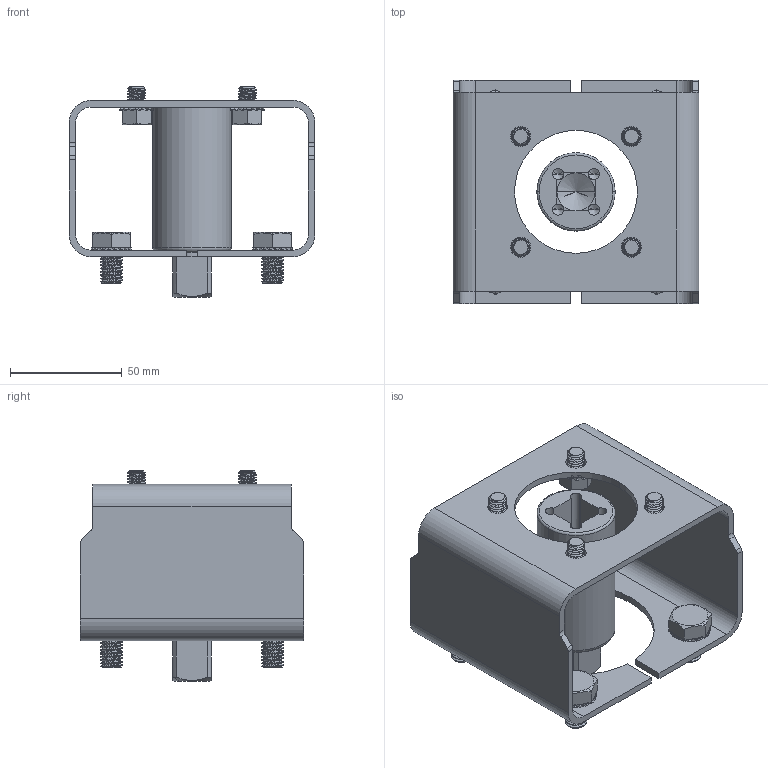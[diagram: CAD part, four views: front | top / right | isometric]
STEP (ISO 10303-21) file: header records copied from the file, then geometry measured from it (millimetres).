
FILE_DESCRIPTION((''),'2;1');
FILE_NAME('74754045600_ASM','2021-06-08T13:36:04',('alfio.taboni'),('CDM Tecnoconsulting'),'CREO PARAMETRIC BY PTC INC, 2020053','CREO PARAMETRIC BY PTC INC, 2020053','');
FILE_SCHEMA(('CONFIG_CONTROL_DESIGN','SHAPE_APPEARANCE_LAYERS_GROUPS'));
Length unit declared in the file: millimetre
Products named in the file (7): 74701545500; 74824034700; RONDELLA_DENT_08; RONDELLA_DENT_10; M10X16; M08X10; 74754045600_ASM
Assembly tree (18 placements, depth 2):
  74754045600_ASM
    74701545500
    74824034700
    RONDELLA_DENT_08  x4
    RONDELLA_DENT_10  x4
    M10X16  x4
    M08X10  x4
Bounding box: 110 x 100 x 94 mm (x, y, z)
Volume: 153447.5 mm3; surface area: 79746.1 mm2
Topology: 18 solids, 18 shells, 1971 faces, 5664 edges, 3743 vertices
Faces by surface type: plane 785, cylinder 474, cone 316, torus 276, bspline 64, extrusion 56
Entity records: 29465 total; most frequent: CARTESIAN_POINT 12085, ORIENTED_EDGE 3916, DIRECTION 3138, EDGE_CURVE 1958, VERTEX_POINT 1295, AXIS2_PLACEMENT_3D 1138, VECTOR 862, LINE 806
